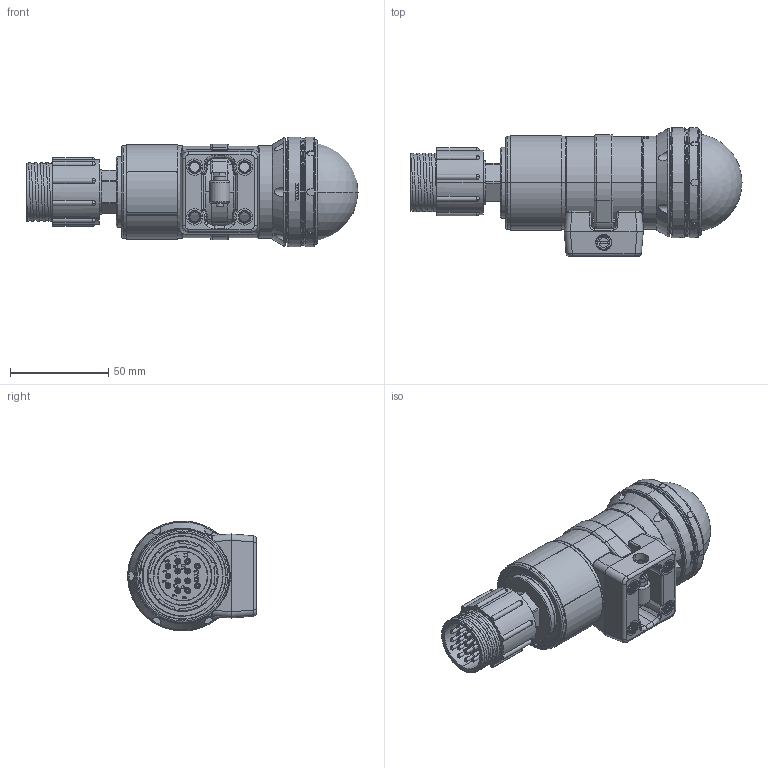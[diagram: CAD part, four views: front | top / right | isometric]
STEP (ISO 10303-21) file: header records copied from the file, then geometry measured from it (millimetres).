
FILE_DESCRIPTION (( 'STEP AP214' ), '1' );
FILE_NAME ('S11255_(MV100-D-TI-BFS-032-C-023-I-SUDBH13MS-13C007)_STEP.STEP', '2024-08-22T15:50:27', ( '' ), ( '' ), 'SwSTEP 2.0', 'SolidWorks 2023', '' );
FILE_SCHEMA (( 'AUTOMOTIVE_DESIGN' ));
Length unit declared in the file: millimetre
Products named in the file (1): S11255_(MV100-D-TI-BFS-032-C-023-I-SUDBH13MS-13C007)_STEP
Bounding box: 169.09 x 65.47 x 56 mm (x, y, z)
Surface area: 52940.3 mm2 (no closed solid volume)
Topology: 0 solids, 34 shells, 803 faces, 3066 edges, 2264 vertices
Faces by surface type: cylinder 353, plane 136, bspline 131, torus 90, cone 69, sphere 24
Entity records: 56332 total; most frequent: CARTESIAN_POINT 34095, ORIENTED_EDGE 4663, DIRECTION 3897, EDGE_CURVE 3040, VERTEX_POINT 2264, AXIS2_PLACEMENT_3D 1530, B_SPLINE_CURVE_WITH_KNOTS 993, EDGE_LOOP 891
